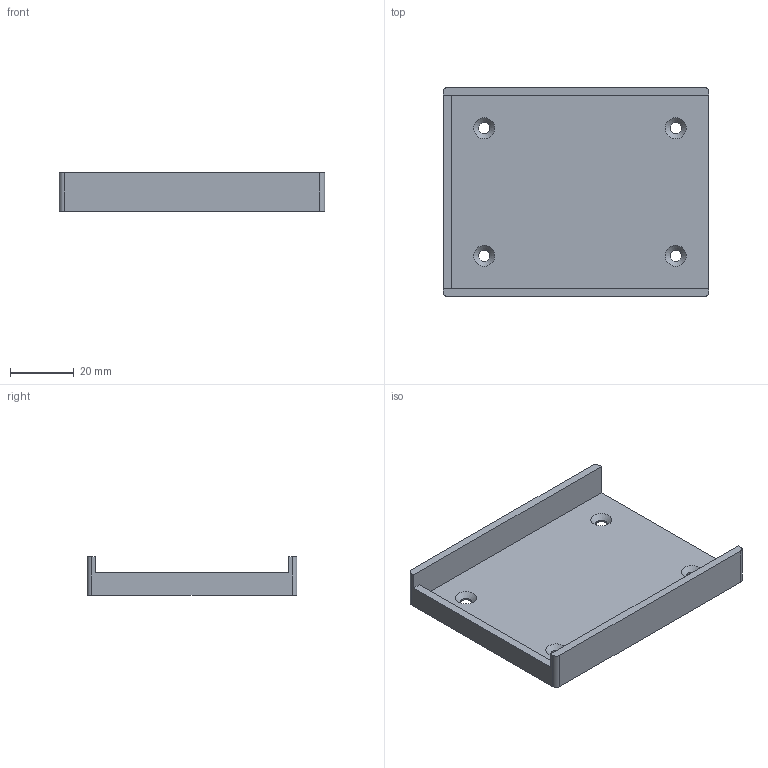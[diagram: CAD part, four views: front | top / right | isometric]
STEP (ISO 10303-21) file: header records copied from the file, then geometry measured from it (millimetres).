
FILE_DESCRIPTION(/* description */ ('STEP AP242 Edition 2','CAx-IF Rec.Pracs.---Representation and Presentation of Product Manufacturing Information (PMI)---4.0---2014-10-13','CAx-IF Rec.Pracs.---3D Tessellated Geometry---0.4---2014-09-14','2;1','CAx-IF Rec.Pracs.---User Defined Attributes---1.5---2016-08-15'),/* implementation_level */ '2;1');
FILE_NAME(/* name */ 'Chassis No Suspension - battery_cradle',/* time_stamp */ '2026-10-25T14:46:19Z',/* author */ (''),/* organization */ (''),/* preprocessor_version */ 'ST-DEVELOPER v20',/* originating_system */ 'ONSHAPE BY PTC INC, 1.222',/* authorisation */ ' ');
FILE_SCHEMA (('AP242_MANAGED_MODEL_BASED_3D_ENGINEERING_MIM_LF { 1 0 10303 442 3 1 4 }'));
Length unit declared in the file: metre
Products named in the file (1): battery_cradle
Bounding box: 83.1 x 65.7 x 12 mm (x, y, z)
Volume: 15664.4 mm3; surface area: 15466.9 mm2
Topology: 1 solids, 1 shells, 24 faces, 66 edges, 44 vertices
Faces by surface type: plane 12, cylinder 8, cone 4
Full cylindrical faces by diameter (mm): 3.6 x4
Entity records: 812 total; most frequent: DIRECTION 140, CARTESIAN_POINT 135, ORIENTED_EDGE 132, EDGE_CURVE 66, AXIS2_PLACEMENT_3D 49, VERTEX_POINT 44, LINE 42, VECTOR 42
